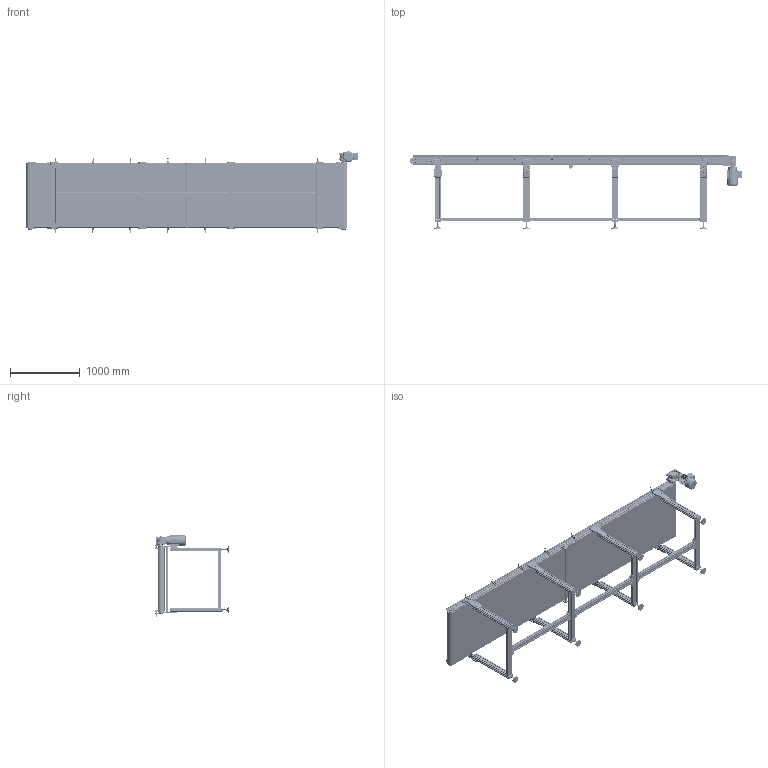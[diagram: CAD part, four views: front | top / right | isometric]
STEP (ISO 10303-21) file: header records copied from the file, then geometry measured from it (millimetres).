
FILE_DESCRIPTION (( 'STEP AP203' ), '1' );
FILE_NAME ('NASTRO_RETTILINEO_TAPPETO.step', '2026-05-06T05:54:29', ( 'Utente Windows' ), ( '' ), 'SwSTEP 2.0', 'SolidWorks 2024', '' );
FILE_SCHEMA (( 'CONFIG_CONTROL_DESIGN' ));
Length unit declared in the file: millimetre
Products named in the file (70): 449.014.106; BLOCCO_RINVIO_95_STANDARD_CON TENDINASTRO E CARTER; VITI TCEI UNI 5931_M4x25 UNI 5931; 084.301.000 VITI ALUSIC_084.301.003; RULLO_95_CINGHIE_Default<A macchina>; 084.305.003-1; RULLO_REGGITAPPETO; 084.711.006_PER CAVA 8 PERNO ALTO 1; 084.802.028; GUIDA_CINGHIA_Z_95; TELAIO_95_CINGHIE_Default<A macchina>; 2010.000.073; TAPPETO_STANDARD_CINGHIE; CH06P_DX; 084.802.019_084.802.019; 084.802.071; 2010.000.072_L_Default<A macchina>; 084.303.001; VITI TE UNI 5739_M8x12 UNI 5739; VITE_RONDELLA_M8X20; 084.711.005; 084.201.019; 084.302.000 DADI ALUSIC 13x13-1_084.302.004; FLANGIA_GAMBA_95_CON GIUNTI; NASTRO_RETTILINEO_TAPPETO; 084.402.005; LAMIERA_STANDARD; BLOCCO_TRAINO_95_STANDARD_CON TENDINASTRO E CARTER; PERNO_95_RINVIO_CINGHIE; 084.802.060_Default<A macchina>; DADI ESAGONALI NORMALI UNI 5588_M6 UNI 5588; 2010.000.074; 084.712.002; 084.808.002_084.808.002; BLOCCO_BRACCIO_CH06P_CH06P; 084.405.001; 084.802.013-2; GAMBE_D95_Default<A macchina>; 084.808.013; 084.803.003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
Assembly tree (275 placements, depth 4):
  NASTRO_RETTILINEO_TAPPETO
    TAPPETO_STANDARD_CINGHIE
    TELAIO_95_CINGHIE_Default<A macchina>
    LAMIERA_STANDARD  x2
    RULLO_95_CINGHIE_Default<A macchina>  x2
    PERNO_95_TRAINO_CINGHIE_63_DX_Default<A macchina>
    BLOCCO_TRAINO_95_STANDARD_63_CON TENDINASTRO E SENZA CARTER
      084.808.003_084.808.003
      084.302.060  x2
      084.802.034_084.802.034
      084.301.000 VITI ALUSIC_084.301.003  x6
      084.802.067_Default<A macchina>
      VITI TCEI UNI 5931_M4x25 UNI 5931  x2
      BLOCCO_BRACCIO_CH06P_CH06P
        084.808.013
        084.802.062
        084.802.060_Default<A macchina>
        VITI TE UNI 5739_M8x12 UNI 5739  x12
    BLOCCO_TRAINO_95_STANDARD_CON TENDINASTRO E CARTER
      084.808.002_084.808.002
      084.302.060  x2
      084.802.019_084.802.019
      084.301.000 VITI ALUSIC_084.301.003  x6
      VITI TCEI UNI 5931_M4x25 UNI 5931  x2
      084.802.071
      084.802.068
      VITI TSEI UNI 5933_M4x12 UNI 5933  x2
    GUIDA_CINGHIA_Z_95  x6
      449.014.106
      DADO ESAGONALE M30 AUTOBLOCCANTE UNI 7473_M30 UNI 7473
    PERNO_95_RINVIO_CINGHIE
    BLOCCO_RINVIO_95_STANDARD_CON TENDINASTRO E CARTER  x2
      084.808.002_084.808.002
      084.803.003
      084.302.060
      084.802.019_084.802.019
      VITI TSEI UNI 5933_M4x12 UNI 5933
      084.302.000 DADI ALUSIC 13x13-1_084.302.004
      084.301.000 VITI ALUSIC_084.301.003
      084.802.071
    SPONDA_Default<A macchina>  x2
    084.711.006_PER CAVA 8 PERNO ALTO 1  x12
      084.711.006_L1
      084.711.006_L2
      084.711.007
      084.711.005
      084.711.010
      DADI ESAGONALI NORMALI UNI 5588_M6 UNI 5588
    084.712.002  x4
    GAMBE_D95_Default<A macchina>  x4
    FLANGIA_GAMBA_95_CON GIUNTI
      2010.000.072
        2010.000.072_L_Default<A macchina>
        2010.000.073
        2010.000.074
      084.302.000 DADI ALUSIC 13x13-1_084.302.004  x6
      RONDELLE UNI 6592_8.4x17 UNI 6592  x7
      084.301.000 VITI ALUSIC1_084.301.003  x7
    FLANGIA_GAMBA_95_CON GIUNTI  x7
      2010.000.072
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Bounding box: 4749.5 x 1065.5 x 1167.43 mm (x, y, z)
Volume: 83119031.9 mm3; surface area: 56381644 mm2
Topology: 680 solids, 687 shells, 32601 faces, 83759 edges, 52844 vertices
Faces by surface type: plane 13825, cylinder 9548, bspline 3601, cone 2816, torus 2403, sphere 408
Entity records: 300814 total; most frequent: CARTESIAN_POINT 102999, ORIENTED_EDGE 40380, DIRECTION 36709, EDGE_CURVE 20190, VERTEX_POINT 12913, AXIS2_PLACEMENT_3D 12473, LINE 11763, VECTOR 11763
